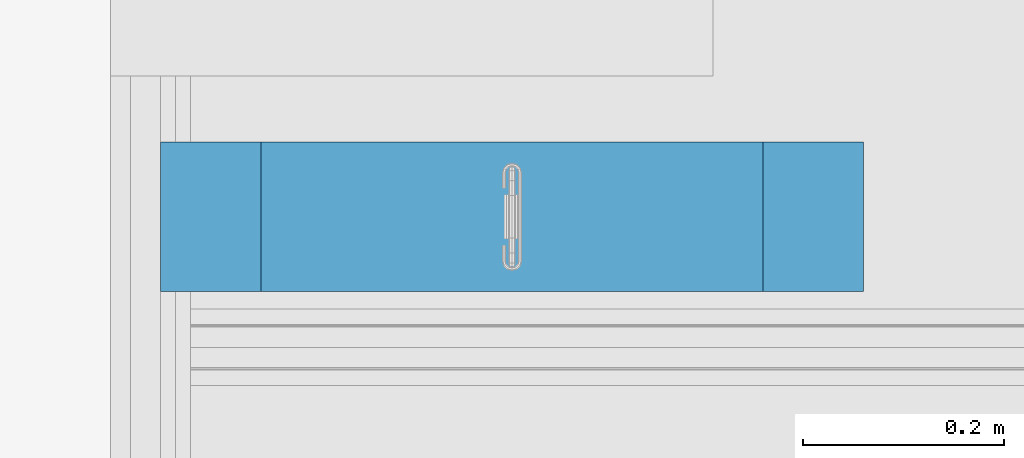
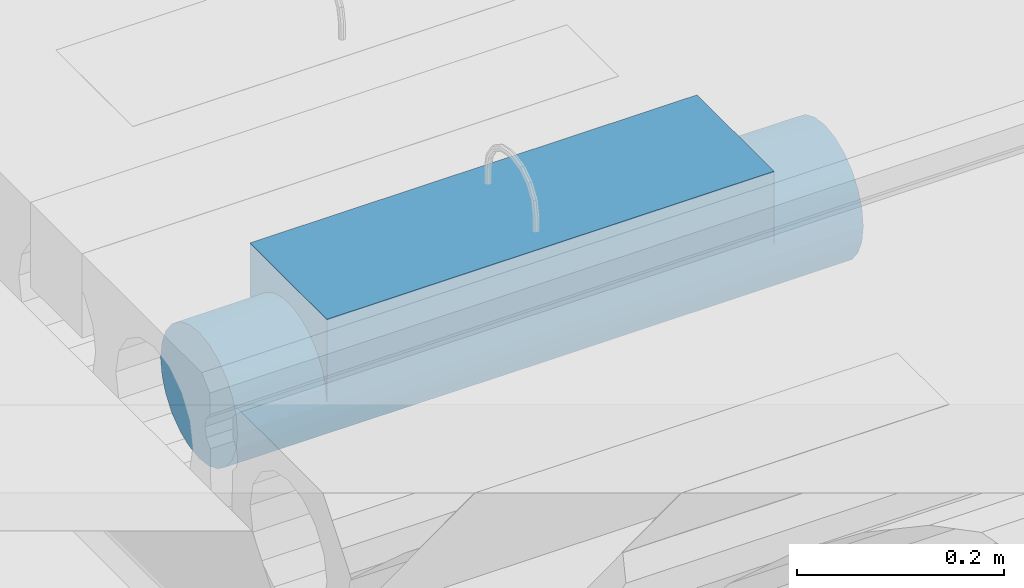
# One storey, part 174 of 230: 1 beam.
"""IFC4X3_ADD2 building model written with IfcOpenShell, lengths in millimetres."""

from ifc_helpers import new_model, si_unit, direction, origin_with_axes, place, context, subcontext, project, spatial, polygons, element, save


model = new_model("IFC4X3_ADD2")

# Units and contexts
model_context = context("Model", 3, precision=1e-05, world=origin_with_axes(), true_north=direction((0.0, 1.0)))
body_context = subcontext(model_context, "Body", "Model", "MODEL_VIEW")
ifc_project = project(units=[si_unit("LENGTHUNIT", "METRE", prefix="MILLI"), si_unit("AREAUNIT", "SQUARE_METRE"), si_unit("VOLUMEUNIT", "CUBIC_METRE"), si_unit("PLANEANGLEUNIT", "RADIAN"), si_unit("TIMEUNIT", "SECOND"), si_unit("MASSUNIT", "GRAM")], contexts=[model_context])

# Site, building, storey
site_placement = place(None, origin_with_axes())
site = spatial("IfcSite", under=ifc_project, at=site_placement, Name="Site", CompositionType="ELEMENT")
building_placement = place(site_placement, origin_with_axes())
building = spatial("IfcBuilding", under=site, at=building_placement, Name="IFC Building Story")
storey_placement = place(building_placement, origin_with_axes())
storey = spatial("IfcBuildingStorey", under=building, at=storey_placement, Name="ETAGE 00 (0)", Elevation=0.0)

# Beam
beam_placement = place(storey_placement, origin_with_axes())
element("IfcBeam", 1, at=beam_placement, inside=storey, Name="ES44", ObjectType="500*149", context=body_context, shape_type="Tessellation", body=[
    polygons([(40931.189, -1481.961455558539, 4119.282009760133), (40831.189, -1482.335147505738, 4117.829005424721), (40931.189, -1484.499981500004, 4099.999990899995), (40931.189, -1474.518874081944, 4137.249990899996), (40831.189, -1475.966456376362, 4134.621865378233), (40831.189, -1452.320806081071, 4161.312288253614), (40931.189, -1462.679436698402, 4152.679446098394), (40931.189, -1447.249981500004, 4164.518883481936), (40831.189, -1436.418046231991, 4169.658700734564), (40931.189, -1429.282000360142, 4171.961464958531), (40831.189, -1465.764033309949, 4149.402627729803), (40831.189, -1484.499981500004, 4099.999987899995), (40831.189, -1418.979964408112, 4173.956801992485), (40931.189, -1409.999981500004, 4174.499990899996), (40831.189, -1401.019998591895, 4173.956801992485), (40931.189, -1390.717962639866, 4171.961464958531), (40931.189, -1372.749981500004, 4164.518883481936), (40831.189, -1383.581916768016, 4169.658700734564), (40931.189, -1345.481088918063, 4137.249990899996), (40931.189, -1338.038507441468, 4119.282009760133), (40831.189, -1344.033506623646, 4134.621865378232), (40831.189, -1354.235929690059, 4149.402627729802), (40931.189, -1357.320526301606, 4152.679446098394), (40831.189, -1367.679156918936, 4161.312288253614), (40831.189, -1337.66481549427, 4117.82900542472), (40931.189, -1335.499981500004, 4099.999990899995), (40831.189, -1335.499981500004, 4099.999987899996), (40331.189, -1335.499981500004, 4199.999987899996), (40331.189, -1484.499981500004, 4199.999987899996), (40831.189, -1484.499981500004, 4199.999987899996), (40831.189, -1335.499981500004, 4199.999987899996), (40331.189, -1335.499981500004, 4099.999987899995), (40331.189, -1337.66481549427, 4117.82900542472), (40331.189, -1344.033506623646, 4134.621865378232), (40331.189, -1354.235929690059, 4149.402627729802), (40331.189, -1367.679156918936, 4161.312288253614), (40331.189, -1383.581916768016, 4169.658700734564), (40331.189, -1401.019998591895, 4173.956801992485), (40331.189, -1418.979964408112, 4173.956801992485), (40331.189, -1436.418046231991, 4169.658700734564), (40331.189, -1452.320806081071, 4161.312288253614), (40331.189, -1465.764033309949, 4149.402627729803), (40331.189, -1475.966456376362, 4134.621865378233), (40331.189, -1482.335147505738, 4117.829005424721), (40331.189, -1484.499981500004, 4099.999987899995), (40231.189, -1338.038507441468, 4119.282009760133), (40231.189, -1335.499981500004, 4099.999990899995), (40231.189, -1338.038507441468, 4080.717972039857), (40231.189, -1345.481088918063, 4062.749990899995), (40231.189, -1357.320526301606, 4047.320535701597), (40231.189, -1372.749981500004, 4035.481098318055), (40231.189, -1390.717962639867, 4028.03851684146), (40231.189, -1409.999981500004, 4025.499990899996), (40231.189, -1429.282000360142, 4028.03851684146), (40231.189, -1447.249981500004, 4035.481098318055), (40231.189, -1462.679436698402, 4047.320535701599), (40231.189, -1474.518874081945, 4062.749990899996), (40231.189, -1481.96145555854, 4080.717972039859), (40231.189, -1484.499981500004, 4099.999990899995), (40231.189, -1481.961455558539, 4119.282009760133), (40231.189, -1474.518874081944, 4137.249990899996), (40231.189, -1462.679436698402, 4152.679446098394), (40231.189, -1447.249981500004, 4164.518883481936), (40231.189, -1429.282000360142, 4171.961464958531), (40231.189, -1409.999981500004, 4174.499990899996), (40231.189, -1390.717962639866, 4171.961464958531), (40231.189, -1372.749981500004, 4164.518883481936), (40231.189, -1357.320526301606, 4152.679446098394), (40231.189, -1345.481088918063, 4137.249990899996), (40931.189, -1481.96145555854, 4080.717972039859), (40931.189, -1474.518874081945, 4062.749990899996), (40931.189, -1462.679436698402, 4047.320535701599), (40931.189, -1447.249981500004, 4035.481098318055), (40931.189, -1429.282000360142, 4028.03851684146), (40931.189, -1409.999981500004, 4025.499990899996), (40931.189, -1390.717962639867, 4028.03851684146), (40931.189, -1372.749981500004, 4035.481098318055), (40931.189, -1357.320526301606, 4047.320535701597), (40931.189, -1345.481088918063, 4062.749990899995), (40931.189, -1338.038507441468, 4080.717972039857), (40581.189, -1341.170956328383, 4071.490075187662), (40581.189, -1381.49006578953, 4031.170965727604), (40581.189, -1364.64725503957, 4040.89516704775), (40581.189, -1350.895157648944, 4054.647264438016), (40581.189, -1400.275780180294, 4026.137348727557), (40581.189, -1336.683328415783, 4086.774319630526), (40581.189, -1419.724182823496, 4026.137348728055), (40581.189, -1438.509897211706, 4031.170965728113), (40581.189, -1483.316634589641, 4086.774319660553), (40581.189, -1455.352707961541, 4040.895167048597), (40581.189, -1469.104805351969, 4054.647264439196), (40581.189, -1478.829006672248, 4071.490075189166)], [[[1, 2, 3]], [[4, 5, 1]], [[6, 7, 8]], [[9, 8, 10]], [[7, 11, 4]], [[1, 5, 2]], [[2, 12, 3]], [[6, 11, 7]], [[9, 6, 8]], [[10, 13, 9]], [[11, 5, 4]], [[10, 14, 13]], [[15, 14, 16]], [[17, 18, 16]], [[19, 20, 21]], [[22, 23, 19]], [[24, 17, 23]], [[25, 20, 26]], [[16, 18, 15]], [[17, 24, 18]], [[23, 22, 24]], [[19, 21, 22]], [[25, 21, 20]], [[26, 27, 25]], [[14, 15, 13]], [[28, 29, 30, 31]], [[44, 45, 29]], [[29, 43, 44]], [[29, 42, 43]], [[29, 41, 42]], [[29, 40, 41]], [[29, 39, 40]], [[29, 28, 38]], [[29, 38, 39]], [[28, 37, 38]], [[28, 36, 37]], [[28, 35, 36]], [[28, 34, 35]], [[28, 33, 34]], [[28, 32, 33]], [[30, 29, 45, 12]], [[25, 27, 31]], [[31, 21, 25]], [[31, 22, 21]], [[31, 24, 22]], [[31, 18, 24]], [[31, 15, 18]], [[31, 30, 13]], [[31, 13, 15]], [[30, 9, 13]], [[30, 6, 9]], [[30, 11, 6]], [[30, 5, 11]], [[30, 2, 5]], [[30, 12, 2]], [[28, 31, 27, 32]], [[46, 47, 48]], [[46, 48, 49]], [[46, 49, 50]], [[46, 50, 51]], [[46, 51, 52]], [[46, 52, 53]], [[46, 53, 54]], [[46, 54, 55]], [[46, 55, 56]], [[46, 56, 57]], [[46, 57, 58]], [[46, 58, 59]], [[46, 59, 60]], [[46, 60, 61]], [[46, 61, 62]], [[46, 62, 63]], [[46, 63, 64]], [[46, 64, 65]], [[46, 65, 66]], [[46, 66, 67]], [[46, 67, 68]], [[46, 68, 69]], [[1, 3, 70]], [[1, 70, 71]], [[1, 71, 72]], [[1, 72, 73]], [[1, 73, 74]], [[1, 74, 75]], [[1, 75, 76]], [[1, 76, 77]], [[1, 77, 78]], [[1, 78, 79]], [[1, 79, 80]], [[1, 80, 26]], [[1, 26, 20]], [[1, 20, 19]], [[1, 19, 23]], [[1, 23, 17]], [[1, 17, 16]], [[1, 16, 14]], [[1, 14, 10]], [[1, 10, 8]], [[1, 8, 7]], [[1, 7, 4]], [[43, 60, 44]], [[42, 61, 43]], [[40, 63, 41]], [[42, 41, 62]], [[64, 40, 39]], [[44, 59, 45]], [[44, 60, 59]], [[61, 42, 62]], [[41, 63, 62]], [[60, 43, 61]], [[40, 64, 63]], [[39, 65, 64]], [[37, 36, 67]], [[38, 37, 66]], [[35, 34, 69]], [[33, 32, 47]], [[34, 33, 46]], [[36, 35, 68]], [[37, 67, 66]], [[66, 65, 38]], [[67, 36, 68]], [[35, 69, 68]], [[46, 69, 34]], [[46, 33, 47]], [[38, 65, 39]], [[27, 26, 80]], [[79, 81, 80]], [[77, 76, 82]], [[83, 78, 77]], [[84, 79, 78]], [[85, 76, 75]], [[27, 86, 32]], [[86, 81, 48]], [[84, 83, 50]], [[48, 47, 32]], [[81, 86, 80]], [[83, 77, 82]], [[81, 84, 49]], [[49, 48, 81]], [[82, 85, 52]], [[50, 49, 84]], [[50, 83, 51]], [[85, 75, 87]], [[52, 51, 82]], [[84, 78, 83]], [[53, 52, 85]], [[83, 82, 51]], [[73, 88, 74]], [[12, 89, 70]], [[27, 80, 86]], [[72, 90, 73]], [[70, 3, 12]], [[87, 53, 85]], [[72, 71, 91]], [[70, 92, 71]], [[82, 76, 85]], [[88, 87, 74]], [[32, 86, 48]], [[89, 12, 45]], [[87, 88, 54]], [[88, 55, 54]], [[88, 90, 55]], [[55, 90, 56]], [[54, 53, 87]], [[90, 72, 91]], [[58, 57, 92]], [[56, 91, 57]], [[92, 70, 89]], [[59, 58, 45]], [[81, 79, 84]], [[90, 91, 56]], [[58, 92, 89]], [[91, 71, 92]], [[91, 92, 57]], [[87, 75, 74]], [[45, 58, 89]], [[88, 73, 90]]]),
])

save(model, "model.ifc")
